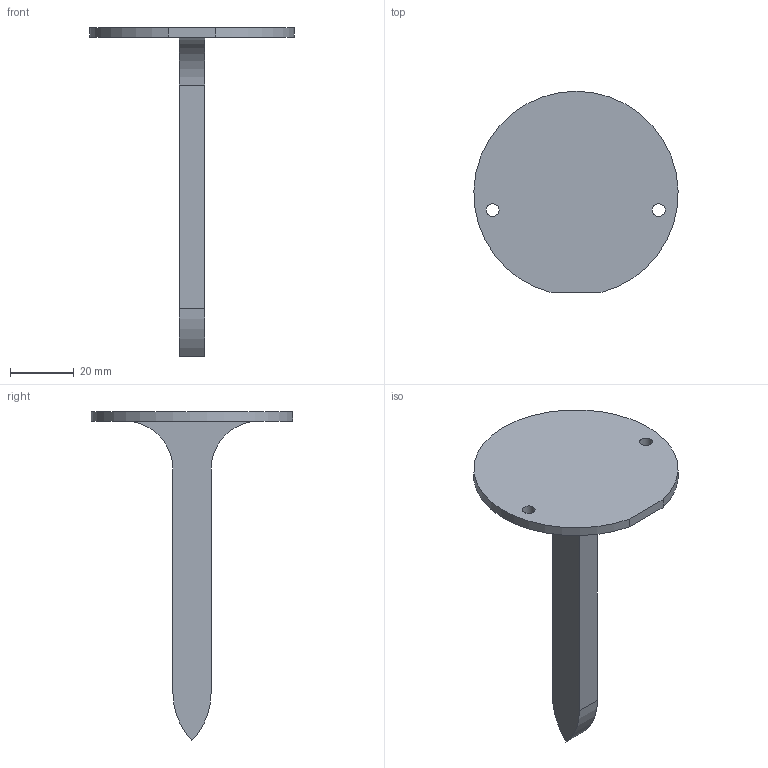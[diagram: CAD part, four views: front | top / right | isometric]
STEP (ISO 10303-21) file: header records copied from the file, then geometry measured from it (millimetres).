
FILE_DESCRIPTION(/* description */ ('STEP AP242 Edition 2','CAx-IF Rec.Pracs.---Representation and Presentation of Product Manufacturing Information (PMI)---4.0---2014-10-13','CAx-IF Rec.Pracs.---3D Tessellated Geometry---0.4---2014-09-14','2;1','CAx-IF Rec.Pracs.---User Defined Attributes---1.5---2016-08-15'),/* implementation_level */ '2;1');
FILE_NAME(/* name */ 'tool_side Copy 1 - Pen',/* time_stamp */ '2026-04-21T11:09:56Z',/* author */ (''),/* organization */ (''),/* preprocessor_version */ 'ST-DEVELOPER v20',/* originating_system */ 'ONSHAPE BY PTC INC, 1.213',/* authorisation */ ' ');
FILE_SCHEMA (('AP242_MANAGED_MODEL_BASED_3D_ENGINEERING_MIM_LF { 1 0 10303 442 3 1 4 }'));
Length unit declared in the file: metre
Products named in the file (1): Pen
Bounding box: 63.97 x 63.11 x 103 mm (x, y, z)
Volume: 19471.4 mm3; surface area: 10950.5 mm2
Topology: 1 solids, 1 shells, 14 faces, 33 edges, 22 vertices
Faces by surface type: plane 7, cylinder 7
Full cylindrical faces by diameter (mm): 4 x2
Entity records: 431 total; most frequent: DIRECTION 75, CARTESIAN_POINT 68, ORIENTED_EDGE 62, EDGE_CURVE 31, AXIS2_PLACEMENT_3D 29, VERTEX_POINT 22, EDGE_LOOP 21, FACE_BOUND 21
